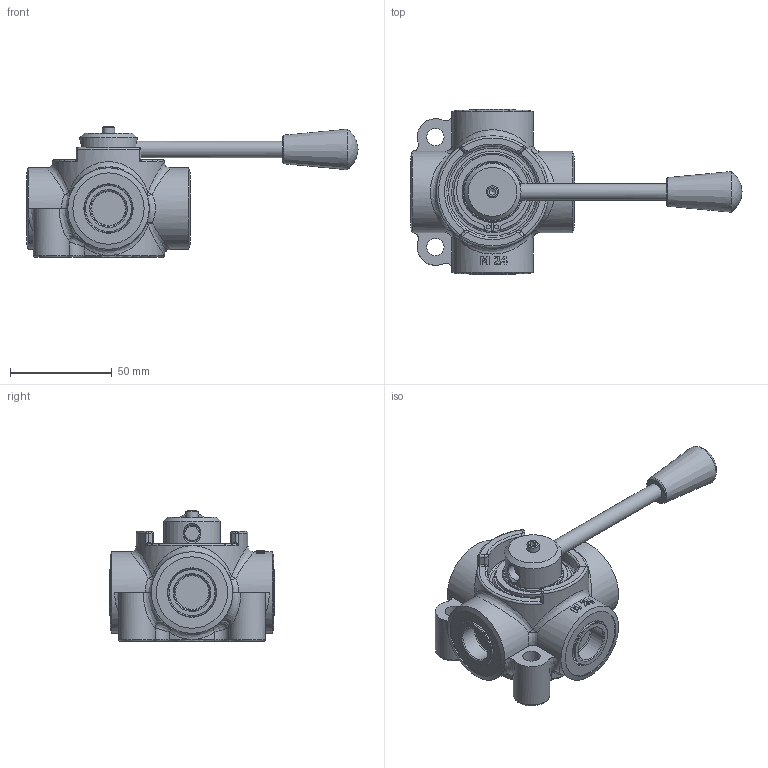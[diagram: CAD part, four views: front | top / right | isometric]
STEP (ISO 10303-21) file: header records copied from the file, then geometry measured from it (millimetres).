
FILE_DESCRIPTION((''),'2;1');
FILE_NAME('G:\HV_HYDRAULIC\AZIENDA_HV_HYDRAULIC\ARCHIVIO_DISEGNI\5_PRODOTTI_FINITI\2_DEVIATORI_INVERTITORI\7001_D4\7001.0201.00.00_D4_7-8_14_UNF_ca_(HV)\7001.0201.stp','2024-09-03T09:16:29',('christian.scardovi'),(''),'Autodesk Inventor 2013','Autodesk Inventor 2013','');
FILE_SCHEMA(('AUTOMOTIVE_DESIGN { 1 0 10303 214 1 1 1 1 }'));
Length unit declared in the file: millimetre
Products named in the file (1): 7001.0201
Bounding box: 163 x 81 x 64.25 mm (x, y, z)
Volume: 177072 mm3; surface area: 48584.6 mm2
Topology: 5 solids, 5 shells, 369 faces, 883 edges, 540 vertices
Faces by surface type: cylinder 117, plane 112, torus 57, bspline 43, cone 29, sphere 11
Full cylindrical faces by diameter (mm): 2 x4, 4 x2, 5 x2, 6 x1, 8 x2, 8.5 x2, 17.5 x4, 19.5 x4, 20.269 x4, 22.5 x4, 28 x1, 28.6 x2, 29.9 x2, 30 x1, 35 x4, 38 x2, 40 x4, 45 x2
Entity records: 15605 total; most frequent: CARTESIAN_POINT 7608, DIRECTION 1518, ORIENTED_EDGE 1454, EDGE_CURVE 727, AXIS2_PLACEMENT_3D 661, EDGE_LOOP 512, VERTEX_POINT 501, FACE_OUTER_BOUND 369
